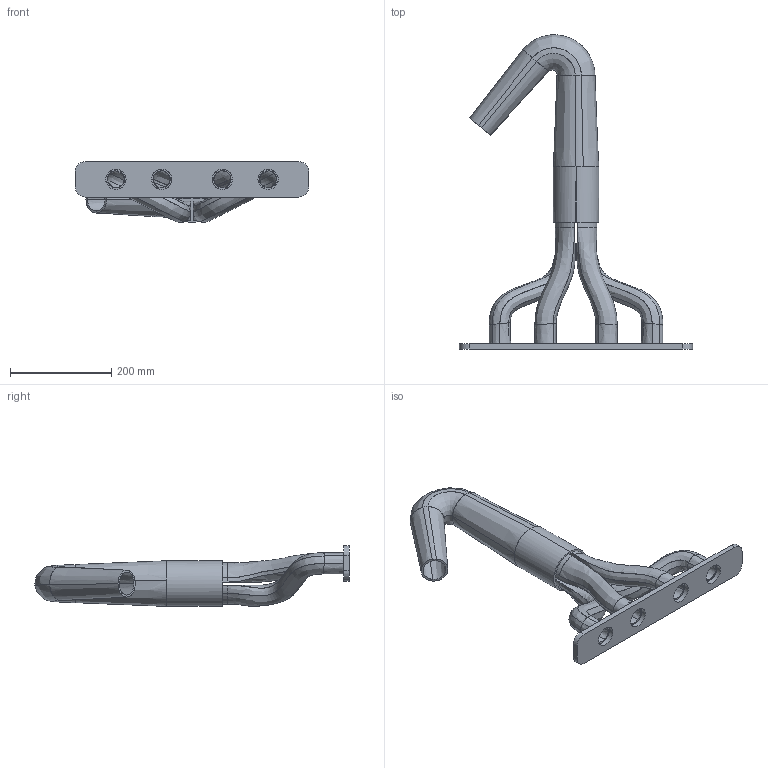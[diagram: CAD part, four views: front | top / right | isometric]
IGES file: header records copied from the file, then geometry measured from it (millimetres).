
Start section: START RECORD GO HERE.
Global section: file name: Exhaust_Pipe_Solid_1-modified-corrected3.igs; native system: DASSAULT SYSTEMES CATIA V5 R19 - www.3ds.com; preprocessor: CATIA Version 5 Release 19 SP 8 ; author: MKeating; organization: ANSYS; date: 20110825.112811; units: millimetre
Bounding box: 460 x 619.62 x 120 mm (x, y, z)
Surface area: 689948.6 mm2 (no closed solid volume)
Topology: 0 solids, 0 shells, 250 faces, 1219 edges, 1219 vertices
Faces by surface type: bspline 157, plane 55, revolution 38
